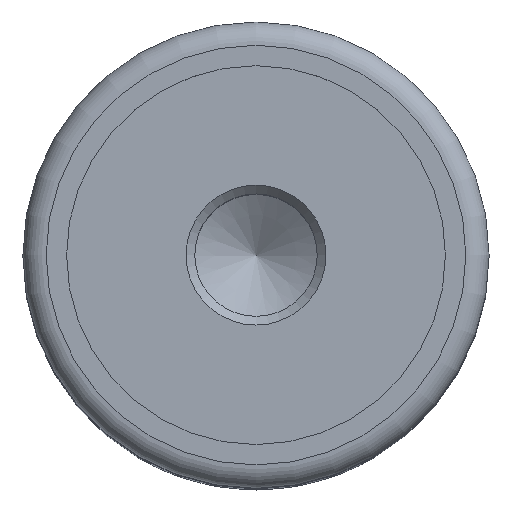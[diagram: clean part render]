
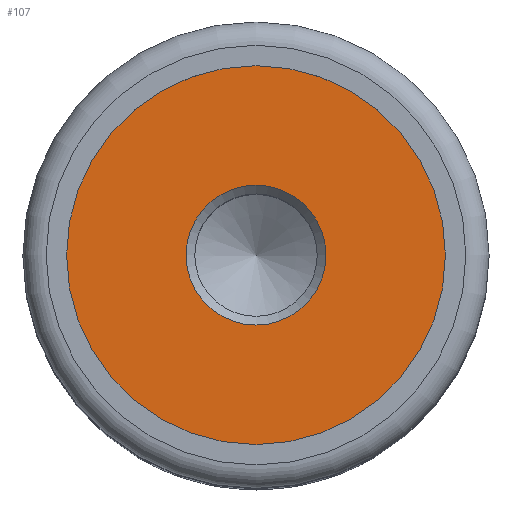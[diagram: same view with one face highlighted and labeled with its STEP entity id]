
A CAD part, top view. The second image highlights one B-rep face of the part: STEP entity #107.
In plain terms, the highlighted planar face has unit normal (0, 0, 1).
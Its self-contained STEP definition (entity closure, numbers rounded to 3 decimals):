
#107=ADVANCED_FACE('',(#186,#187),#188,.T.);
#186=FACE_BOUND('',#287,.T.);
#187=FACE_OUTER_BOUND('',#288,.T.);
#188=PLANE('',#289);
#287=EDGE_LOOP('',(#386));
#288=EDGE_LOOP('',(#387));
#289=AXIS2_PLACEMENT_3D('',#388,#389,#390);
#386=ORIENTED_EDGE('',*,*,#519,.T.);
#387=ORIENTED_EDGE('',*,*,#520,.T.);
#388=CARTESIAN_POINT('',(0.0,0.0,17.2));
#389=DIRECTION('',(0.0,0.0,1.0));
#390=DIRECTION('',(1.0,0.0,0.0));
#519=EDGE_CURVE('',#568,#568,#569,.F.);
#520=EDGE_CURVE('',#570,#570,#571,.T.);
#568=VERTEX_POINT('',#638);
#569=CIRCLE('',#639,2.4);
#570=VERTEX_POINT('',#640);
#571=CIRCLE('',#641,6.5);
#638=CARTESIAN_POINT('',(2.4,0.,17.2));
#639=AXIS2_PLACEMENT_3D('',#833,#834,#835);
#640=CARTESIAN_POINT('',(6.5,0.0,17.2));
#641=AXIS2_PLACEMENT_3D('',#836,#837,#838);
#833=CARTESIAN_POINT('',(0.0,0.0,17.2));
#834=DIRECTION('',(0.0,0.0,1.0));
#835=DIRECTION('',(1.0,0.0,0.0));
#836=CARTESIAN_POINT('',(0.0,0.0,17.2));
#837=DIRECTION('',(0.0,0.0,1.0));
#838=DIRECTION('',(1.0,0.0,0.0));
